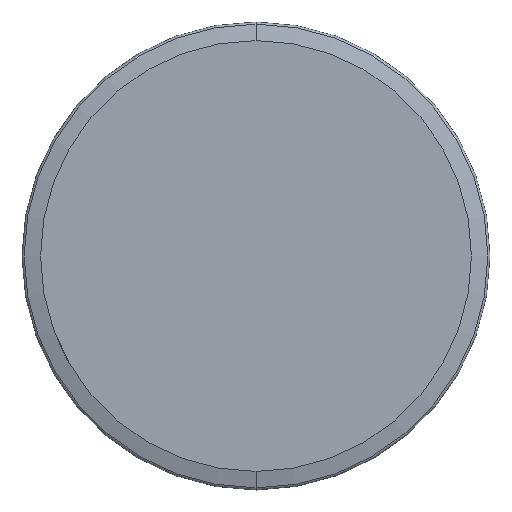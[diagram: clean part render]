
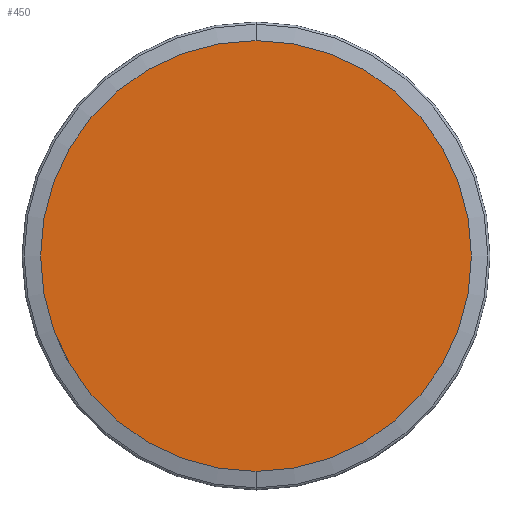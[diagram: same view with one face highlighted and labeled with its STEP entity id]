
A CAD part, left-side view. The second image highlights one B-rep face of the part: STEP entity #450.
In plain terms, the highlighted planar face has unit normal (-1, 0, 0).
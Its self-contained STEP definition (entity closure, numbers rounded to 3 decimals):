
#57 = AXIS2_PLACEMENT_3D ( 'NONE', #3595, #3605, #3543 ) ;
#450 = ADVANCED_FACE ( 'NONE', ( #636 ), #3566, .T. ) ;
#571 = CARTESIAN_POINT ( 'NONE',  ( 2155.5, 0., 2890. ) ) ;
#636 = FACE_OUTER_BOUND ( 'NONE', #2380, .T. ) ;
#919 = DIRECTION ( 'NONE',  ( 0., 0., 1. ) ) ;
#1208 = AXIS2_PLACEMENT_3D ( 'NONE', #571, #2645, #919 ) ;
#1344 = CARTESIAN_POINT ( 'NONE',  ( 2155.5, 0., 3035. ) ) ;
#1409 = CARTESIAN_POINT ( 'NONE',  ( 2155.5, 0., 2890. ) ) ;
#1512 = CIRCLE ( 'NONE', #1208, 145. ) ;
#1713 = DIRECTION ( 'NONE',  ( 0., 0., 1. ) ) ;
#1853 = ORIENTED_EDGE ( 'NONE', *, *, #2876, .F. ) ;
#1909 = CARTESIAN_POINT ( 'NONE',  ( 2155.5, 0., 2745. ) ) ;
#2380 = EDGE_LOOP ( 'NONE', ( #2525, #1853 ) ) ;
#2439 = AXIS2_PLACEMENT_3D ( 'NONE', #1409, #3466, #1713 ) ;
#2525 = ORIENTED_EDGE ( 'NONE', *, *, #3915, .F. ) ;
#2645 = DIRECTION ( 'NONE',  ( 1., 0., 0. ) ) ;
#2876 = EDGE_CURVE ( 'NONE', #3463, #3619, #1512, .T. ) ;
#3463 = VERTEX_POINT ( 'NONE', #1909 ) ;
#3466 = DIRECTION ( 'NONE',  ( 1., 0., 0. ) ) ;
#3543 = DIRECTION ( 'NONE',  ( 0., 0., -1. ) ) ;
#3566 = PLANE ( 'NONE',  #57 ) ;
#3595 = CARTESIAN_POINT ( 'NONE',  ( 2155.5, 0., 3031. ) ) ;
#3605 = DIRECTION ( 'NONE',  ( -1., 0., 0. ) ) ;
#3619 = VERTEX_POINT ( 'NONE', #1344 ) ;
#3862 = CIRCLE ( 'NONE', #2439, 145. ) ;
#3915 = EDGE_CURVE ( 'NONE', #3619, #3463, #3862, .T. ) ;
